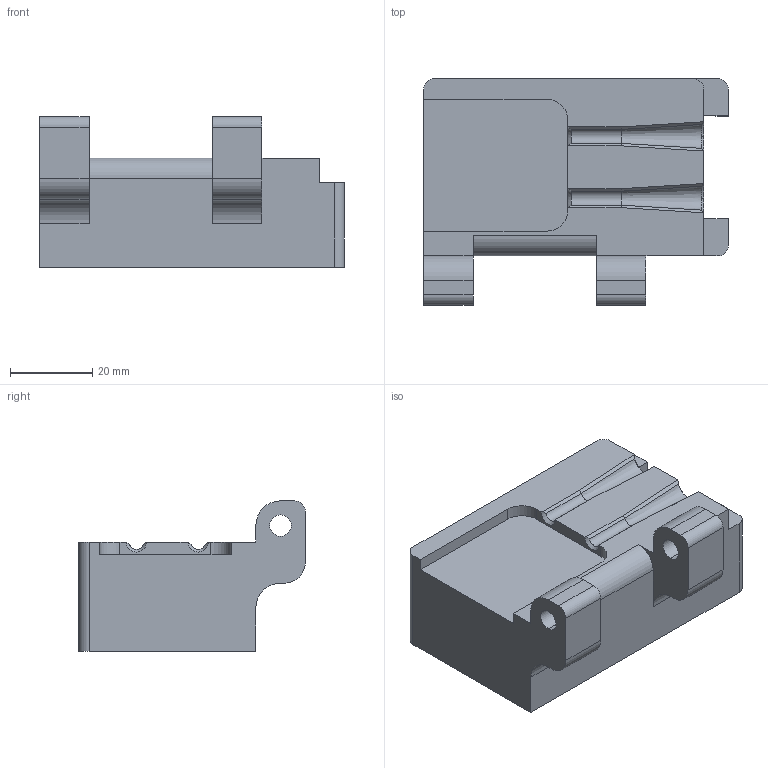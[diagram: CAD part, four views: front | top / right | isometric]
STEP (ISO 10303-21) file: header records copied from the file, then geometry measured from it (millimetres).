
FILE_DESCRIPTION (( 'STEP AP214' ), '1' );
FILE_NAME ('GZ29.17_V1下压块.STEP', '2021-05-09T07:28:37', ( '微软中国' ), ( 'Microsoft' ), 'SwSTEP 2.0', 'SolidWorks 2017', '' );
FILE_SCHEMA (( 'AUTOMOTIVE_DESIGN' ));
Length unit declared in the file: millimetre
Products named in the file (1): GZ29.17_V1狟揤輸
Bounding box: 74 x 55 x 36.5 mm (x, y, z)
Volume: 77181 mm3; surface area: 15960.2 mm2
Topology: 1 solids, 1 shells, 88 faces, 249 edges, 159 vertices
Faces by surface type: plane 39, cylinder 29, cone 16, bspline 4
Entity records: 3175 total; most frequent: CARTESIAN_POINT 809, ORIENTED_EDGE 482, DIRECTION 451, EDGE_CURVE 241, VERTEX_POINT 159, AXIS2_PLACEMENT_3D 153, LINE 145, VECTOR 145
